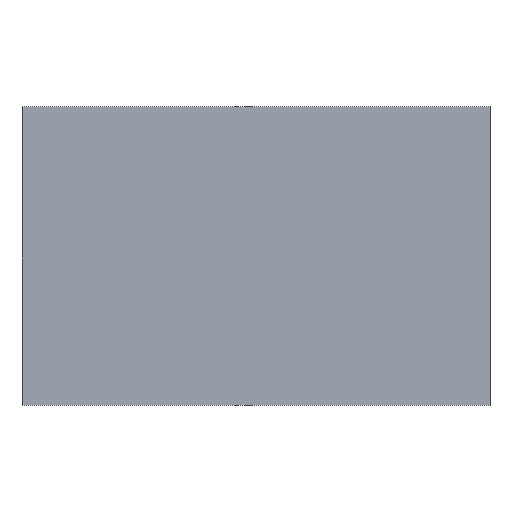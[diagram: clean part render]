
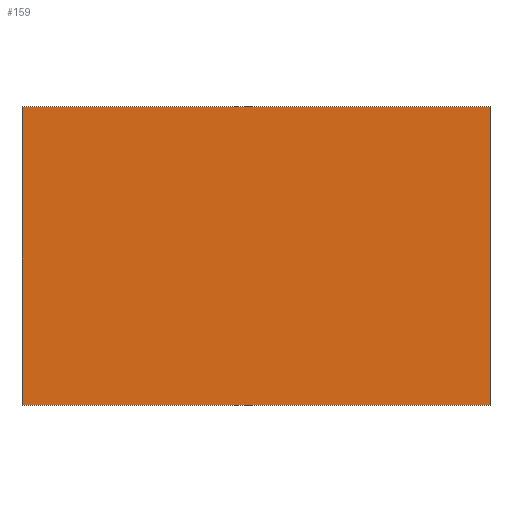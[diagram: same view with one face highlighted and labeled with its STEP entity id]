
A CAD part, top view. The second image highlights one B-rep face of the part: STEP entity #159.
In plain terms, the highlighted planar face has unit normal (0, 0, 1).
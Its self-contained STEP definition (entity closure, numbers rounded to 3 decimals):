
#24=CARTESIAN_POINT('',(400.,255.,5.));
#25=VERTEX_POINT('',#24);
#42=CARTESIAN_POINT('',(-400.,255.,5.));
#43=VERTEX_POINT('',#42);
#50=CARTESIAN_POINT('',(-400.,255.,5.));
#51=DIRECTION('',(1.,0.,0.));
#52=VECTOR('',#51,1.);
#53=LINE('',#50,#52);
#54=EDGE_CURVE('',#43,#25,#53,.T.);
#64=CARTESIAN_POINT('',(400.,-255.,5.));
#65=VERTEX_POINT('',#64);
#81=CARTESIAN_POINT('',(400.,255.,5.));
#82=DIRECTION('',(0.,-1.,0.));
#83=VECTOR('',#82,1.);
#84=LINE('',#81,#83);
#85=EDGE_CURVE('',#25,#65,#84,.T.);
#95=CARTESIAN_POINT('',(-400.,-255.,5.));
#96=VERTEX_POINT('',#95);
#112=CARTESIAN_POINT('',(400.,-255.,5.));
#113=DIRECTION('',(-1.,0.,0.));
#114=VECTOR('',#113,1.);
#115=LINE('',#112,#114);
#116=EDGE_CURVE('',#65,#96,#115,.T.);
#134=CARTESIAN_POINT('',(-400.,-255.,5.));
#135=DIRECTION('',(0.,1.,0.));
#136=VECTOR('',#135,1.);
#137=LINE('',#134,#136);
#138=EDGE_CURVE('',#96,#43,#137,.T.);
#148=ORIENTED_EDGE('',*,*,#85,.F.);
#149=ORIENTED_EDGE('',*,*,#54,.F.);
#150=ORIENTED_EDGE('',*,*,#138,.F.);
#151=ORIENTED_EDGE('',*,*,#116,.F.);
#152=EDGE_LOOP('',(#148,#149,#150,#151));
#153=FACE_OUTER_BOUND('',#152,.T.);
#154=CARTESIAN_POINT('',(0.,0.,5.));
#155=DIRECTION('',(0.,0.,-1.));
#156=DIRECTION('',(-1.,0.,0.));
#157=AXIS2_PLACEMENT_3D('',#154,#155,#156);
#158=PLANE('',#157);
#159=ADVANCED_FACE('',(#153),#158,.F.);
